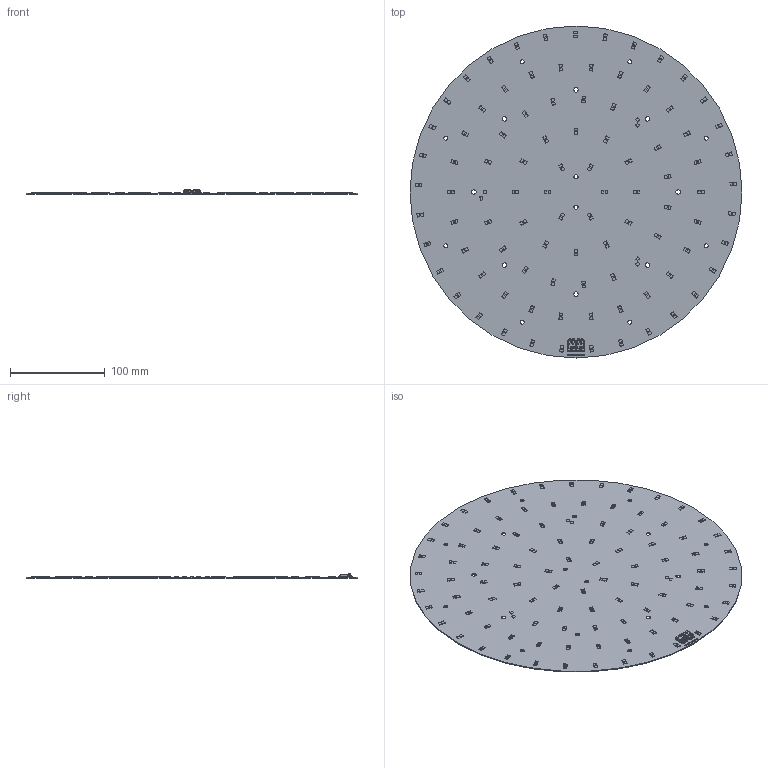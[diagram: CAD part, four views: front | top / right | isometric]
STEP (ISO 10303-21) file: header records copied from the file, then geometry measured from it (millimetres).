
FILE_DESCRIPTION(/* description */ ('Unknown'),/* implementation_level */ '2;1');
FILE_NAME(/* name */ 'RdLED 350mm 4000lm TW 36V&144V (2x96x2835) sh-000 2023-10-13',/* time_stamp */ '2023-10-13T14:33:10+02:00',/* author */ ('Unknown'),/* organization */ ('Unknown'),/* preprocessor_version */ 'ST-DEVELOPER v18.102',/* originating_system */ 'Solid Edge',/* authorisation */ 'Unknown');
FILE_SCHEMA (('AUTOMOTIVE_DESIGN {1 0 10303 214 3 1 1}'));
Products named in the file (1): RdLED 350mm 4000lm TW 36V&144V (2x96x2835) sh-000 2023-10-13
Bounding box: 350 x 350 x 4.45 mm (x, y, z)
Volume: 97564.1 mm3; surface area: 195580.2 mm2
Topology: 1 solids, 1 shells, 3991 faces, 10457 edges, 6862 vertices
Faces by surface type: plane 3468, cylinder 259, torus 104, cone 88, bspline 52, sphere 20
Full cylindrical faces by diameter (mm): 4.3 x10, 350 x1
Entity records: 150151 total; most frequent: CARTESIAN_POINT 25340, ORIENTED_EDGE 20816, DIRECTION 17908, EDGE_CURVE 10408, LINE 9164, VECTOR 9164, VERTEX_POINT 6852, EDGE_LOOP 4472
